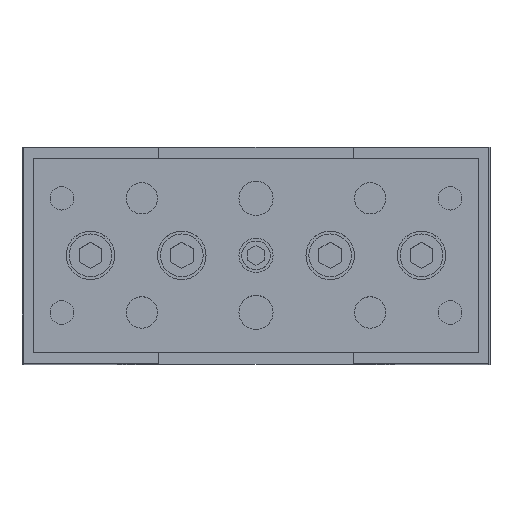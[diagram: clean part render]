
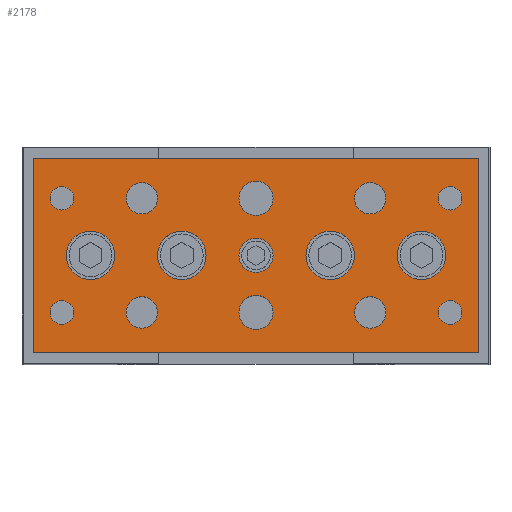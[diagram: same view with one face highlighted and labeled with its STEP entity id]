
A CAD part, top view. The second image highlights one B-rep face of the part: STEP entity #2178.
In plain terms, the highlighted planar face has unit normal (0, 0, 1).
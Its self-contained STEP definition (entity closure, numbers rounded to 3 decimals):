
#139=CARTESIAN_POINT('',(-17.25,10.0,271.0));
#140=VERTEX_POINT('',#139);
#141=CARTESIAN_POINT('',(-20.0,10.0,271.0));
#142=DIRECTION('',(0.0,0.0,-1.0));
#143=DIRECTION('',(-1.0,0.0,0.0));
#144=AXIS2_PLACEMENT_3D('',#141,#142,#143);
#145=CIRCLE('',#144,2.75);
#146=EDGE_CURVE('',#140,#140,#145,.T.);
#249=CARTESIAN_POINT('',(22.75,10.0,271.0));
#250=VERTEX_POINT('',#249);
#251=CARTESIAN_POINT('',(20.,10.0,271.0));
#252=DIRECTION('',(0.0,0.0,-1.0));
#253=DIRECTION('',(-1.0,0.0,0.0));
#254=AXIS2_PLACEMENT_3D('',#251,#252,#253);
#255=CIRCLE('',#254,2.75);
#256=EDGE_CURVE('',#250,#250,#255,.T.);
#359=CARTESIAN_POINT('',(-17.25,-10.0,271.0));
#360=VERTEX_POINT('',#359);
#361=CARTESIAN_POINT('',(-20.0,-10.0,271.0));
#362=DIRECTION('',(0.0,0.0,-1.0));
#363=DIRECTION('',(-1.0,0.0,0.0));
#364=AXIS2_PLACEMENT_3D('',#361,#362,#363);
#365=CIRCLE('',#364,2.75);
#366=EDGE_CURVE('',#360,#360,#365,.T.);
#469=CARTESIAN_POINT('',(22.75,-10.0,271.0));
#470=VERTEX_POINT('',#469);
#471=CARTESIAN_POINT('',(20.,-10.0,271.0));
#472=DIRECTION('',(0.0,0.0,-1.0));
#473=DIRECTION('',(-1.0,0.0,0.0));
#474=AXIS2_PLACEMENT_3D('',#471,#472,#473);
#475=CIRCLE('',#474,2.75);
#476=EDGE_CURVE('',#470,#470,#475,.T.);
#500=CARTESIAN_POINT('',(3.,-10.0,271.0));
#501=VERTEX_POINT('',#500);
#502=CARTESIAN_POINT('',(0.0,-10.0,271.0));
#503=DIRECTION('',(0.0,0.0,-1.0));
#504=DIRECTION('',(-1.0,0.0,0.0));
#505=AXIS2_PLACEMENT_3D('',#502,#503,#504);
#506=CIRCLE('',#505,3.);
#507=EDGE_CURVE('',#501,#501,#506,.T.);
#537=CARTESIAN_POINT('',(3.,10.0,271.0));
#538=VERTEX_POINT('',#537);
#539=CARTESIAN_POINT('',(0.0,10.0,271.0));
#540=DIRECTION('',(0.0,0.0,-1.0));
#541=DIRECTION('',(-1.0,0.0,0.0));
#542=AXIS2_PLACEMENT_3D('',#539,#540,#541);
#543=CIRCLE('',#542,3.);
#544=EDGE_CURVE('',#538,#538,#543,.T.);
#595=CARTESIAN_POINT('',(-31.933,10.0,271.0));
#596=VERTEX_POINT('',#595);
#597=CARTESIAN_POINT('',(-34.0,10.0,271.0));
#598=DIRECTION('',(0.0,0.0,-1.0));
#599=DIRECTION('',(1.0,0.0,0.0));
#600=AXIS2_PLACEMENT_3D('',#597,#598,#599);
#601=CIRCLE('',#600,2.067);
#602=EDGE_CURVE('',#596,#596,#601,.T.);
#644=CARTESIAN_POINT('',(36.067,10.0,271.0));
#645=VERTEX_POINT('',#644);
#646=CARTESIAN_POINT('',(34.0,10.0,271.0));
#647=DIRECTION('',(0.0,0.0,-1.0));
#648=DIRECTION('',(1.0,0.0,0.0));
#649=AXIS2_PLACEMENT_3D('',#646,#647,#648);
#650=CIRCLE('',#649,2.067);
#651=EDGE_CURVE('',#645,#645,#650,.T.);
#693=CARTESIAN_POINT('',(-31.933,-10.0,271.0));
#694=VERTEX_POINT('',#693);
#695=CARTESIAN_POINT('',(-34.0,-10.0,271.0));
#696=DIRECTION('',(0.0,0.0,-1.0));
#697=DIRECTION('',(1.0,0.0,0.0));
#698=AXIS2_PLACEMENT_3D('',#695,#696,#697);
#699=CIRCLE('',#698,2.067);
#700=EDGE_CURVE('',#694,#694,#699,.T.);
#742=CARTESIAN_POINT('',(36.067,-10.0,271.0));
#743=VERTEX_POINT('',#742);
#744=CARTESIAN_POINT('',(34.0,-10.0,271.0));
#745=DIRECTION('',(0.0,0.0,-1.0));
#746=DIRECTION('',(1.0,0.0,0.0));
#747=AXIS2_PLACEMENT_3D('',#744,#745,#746);
#748=CIRCLE('',#747,2.067);
#749=EDGE_CURVE('',#743,#743,#748,.T.);
#1398=CARTESIAN_POINT('',(3.,0.,271.0));
#1399=VERTEX_POINT('',#1398);
#1400=CARTESIAN_POINT('',(0.0,0.0,271.0));
#1401=DIRECTION('',(0.0,0.0,-1.0));
#1402=DIRECTION('',(-1.0,0.0,0.0));
#1403=AXIS2_PLACEMENT_3D('',#1400,#1401,#1402);
#1404=CIRCLE('',#1403,3.);
#1405=EDGE_CURVE('',#1399,#1399,#1404,.T.);
#1466=CARTESIAN_POINT('',(17.25,0.,271.0));
#1467=VERTEX_POINT('',#1466);
#1468=CARTESIAN_POINT('',(13.,0.0,271.0));
#1469=DIRECTION('',(0.0,0.0,-1.0));
#1470=DIRECTION('',(-1.0,0.0,0.0));
#1471=AXIS2_PLACEMENT_3D('',#1468,#1469,#1470);
#1472=CIRCLE('',#1471,4.25);
#1473=EDGE_CURVE('',#1467,#1467,#1472,.T.);
#1534=CARTESIAN_POINT('',(-8.75,0.,271.0));
#1535=VERTEX_POINT('',#1534);
#1536=CARTESIAN_POINT('',(-13.,0.0,271.0));
#1537=DIRECTION('',(0.0,0.0,-1.0));
#1538=DIRECTION('',(-1.0,0.0,0.0));
#1539=AXIS2_PLACEMENT_3D('',#1536,#1537,#1538);
#1540=CIRCLE('',#1539,4.25);
#1541=EDGE_CURVE('',#1535,#1535,#1540,.T.);
#1602=CARTESIAN_POINT('',(33.25,0.,271.0));
#1603=VERTEX_POINT('',#1602);
#1604=CARTESIAN_POINT('',(29.,0.,271.0));
#1605=DIRECTION('',(0.0,0.0,-1.0));
#1606=DIRECTION('',(-1.0,0.0,0.0));
#1607=AXIS2_PLACEMENT_3D('',#1604,#1605,#1606);
#1608=CIRCLE('',#1607,4.25);
#1609=EDGE_CURVE('',#1603,#1603,#1608,.T.);
#1670=CARTESIAN_POINT('',(-24.75,0.,271.0));
#1671=VERTEX_POINT('',#1670);
#1672=CARTESIAN_POINT('',(-29.,0.,271.0));
#1673=DIRECTION('',(0.0,0.0,-1.0));
#1674=DIRECTION('',(-1.0,0.0,0.0));
#1675=AXIS2_PLACEMENT_3D('',#1672,#1673,#1674);
#1676=CIRCLE('',#1675,4.25);
#1677=EDGE_CURVE('',#1671,#1671,#1676,.T.);
#2094=CARTESIAN_POINT('',(39.0,0.0,271.0));
#2095=DIRECTION('',(0.0,0.0,1.0));
#2096=DIRECTION('',(1.0,0.0,0.0));
#2097=AXIS2_PLACEMENT_3D('',#2094,#2095,#2096);
#2098=PLANE('',#2097);
#2099=CARTESIAN_POINT('',(39.0,17.0,271.0));
#2100=VERTEX_POINT('',#2099);
#2101=CARTESIAN_POINT('',(-39.0,17.0,271.0));
#2102=VERTEX_POINT('',#2101);
#2103=CARTESIAN_POINT('',(39.0,17.0,271.0));
#2104=DIRECTION('',(-1.0,0.0,0.0));
#2105=VECTOR('',#2104,78.0);
#2106=LINE('',#2103,#2105);
#2107=EDGE_CURVE('',#2100,#2102,#2106,.T.);
#2108=ORIENTED_EDGE('',*,*,#2107,.T.);
#2109=CARTESIAN_POINT('',(-39.0,-17.0,271.0));
#2110=VERTEX_POINT('',#2109);
#2111=CARTESIAN_POINT('',(-39.0,17.0,271.0));
#2112=DIRECTION('',(0.0,-1.0,0.0));
#2113=VECTOR('',#2112,34.0);
#2114=LINE('',#2111,#2113);
#2115=EDGE_CURVE('',#2102,#2110,#2114,.T.);
#2116=ORIENTED_EDGE('',*,*,#2115,.T.);
#2117=CARTESIAN_POINT('',(39.0,-17.0,271.0));
#2118=VERTEX_POINT('',#2117);
#2119=CARTESIAN_POINT('',(-39.0,-17.0,271.0));
#2120=DIRECTION('',(1.0,0.0,0.0));
#2121=VECTOR('',#2120,78.0);
#2122=LINE('',#2119,#2121);
#2123=EDGE_CURVE('',#2110,#2118,#2122,.T.);
#2124=ORIENTED_EDGE('',*,*,#2123,.T.);
#2125=CARTESIAN_POINT('',(39.0,-17.0,271.0));
#2126=DIRECTION('',(0.0,1.0,0.0));
#2127=VECTOR('',#2126,34.0);
#2128=LINE('',#2125,#2127);
#2129=EDGE_CURVE('',#2118,#2100,#2128,.T.);
#2130=ORIENTED_EDGE('',*,*,#2129,.T.);
#2131=EDGE_LOOP('',(#2108,#2116,#2124,#2130));
#2132=FACE_OUTER_BOUND('',#2131,.T.);
#2133=ORIENTED_EDGE('',*,*,#146,.T.);
#2134=EDGE_LOOP('',(#2133));
#2135=FACE_BOUND('',#2134,.T.);
#2136=ORIENTED_EDGE('',*,*,#256,.T.);
#2137=EDGE_LOOP('',(#2136));
#2138=FACE_BOUND('',#2137,.T.);
#2139=ORIENTED_EDGE('',*,*,#366,.T.);
#2140=EDGE_LOOP('',(#2139));
#2141=FACE_BOUND('',#2140,.T.);
#2142=ORIENTED_EDGE('',*,*,#476,.T.);
#2143=EDGE_LOOP('',(#2142));
#2144=FACE_BOUND('',#2143,.T.);
#2145=ORIENTED_EDGE('',*,*,#507,.T.);
#2146=EDGE_LOOP('',(#2145));
#2147=FACE_BOUND('',#2146,.T.);
#2148=ORIENTED_EDGE('',*,*,#544,.T.);
#2149=EDGE_LOOP('',(#2148));
#2150=FACE_BOUND('',#2149,.T.);
#2151=ORIENTED_EDGE('',*,*,#602,.T.);
#2152=EDGE_LOOP('',(#2151));
#2153=FACE_BOUND('',#2152,.T.);
#2154=ORIENTED_EDGE('',*,*,#651,.T.);
#2155=EDGE_LOOP('',(#2154));
#2156=FACE_BOUND('',#2155,.T.);
#2157=ORIENTED_EDGE('',*,*,#700,.T.);
#2158=EDGE_LOOP('',(#2157));
#2159=FACE_BOUND('',#2158,.T.);
#2160=ORIENTED_EDGE('',*,*,#749,.T.);
#2161=EDGE_LOOP('',(#2160));
#2162=FACE_BOUND('',#2161,.T.);
#2163=ORIENTED_EDGE('',*,*,#1677,.T.);
#2164=EDGE_LOOP('',(#2163));
#2165=FACE_BOUND('',#2164,.T.);
#2166=ORIENTED_EDGE('',*,*,#1609,.T.);
#2167=EDGE_LOOP('',(#2166));
#2168=FACE_BOUND('',#2167,.T.);
#2169=ORIENTED_EDGE('',*,*,#1541,.T.);
#2170=EDGE_LOOP('',(#2169));
#2171=FACE_BOUND('',#2170,.T.);
#2172=ORIENTED_EDGE('',*,*,#1473,.T.);
#2173=EDGE_LOOP('',(#2172));
#2174=FACE_BOUND('',#2173,.T.);
#2175=ORIENTED_EDGE('',*,*,#1405,.T.);
#2176=EDGE_LOOP('',(#2175));
#2177=FACE_BOUND('',#2176,.T.);
#2178=ADVANCED_FACE('',(#2132,#2135,#2138,#2141,#2144,#2147,#2150,#2153,#2156,#2159,#2162,#2165,#2168,#2171,#2174,#2177),#2098,.T.);
